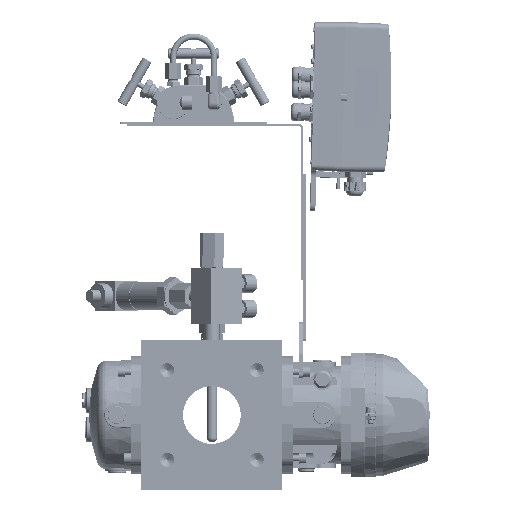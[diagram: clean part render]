
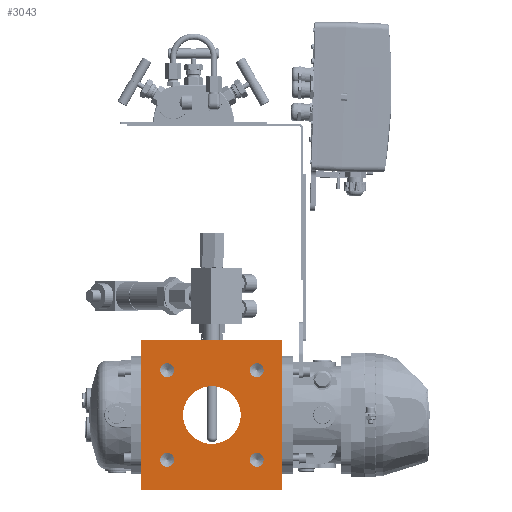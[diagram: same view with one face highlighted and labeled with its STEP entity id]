
A CAD part, front view. The second image highlights one B-rep face of the part: STEP entity #3043.
In plain terms, the highlighted planar face has unit normal (0, -1, 0).
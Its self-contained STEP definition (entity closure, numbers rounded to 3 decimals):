
#3043=ADVANCED_FACE('',(#281052,#281054,#281056,#281058,#281060,#281062),#281064,
.T.);
#281052=FACE_BOUND('',#281053,.T.);
#281053=EDGE_LOOP('',(#553395,#553396,#553397,#553398));
#281054=FACE_BOUND('',#281055,.T.);
#281055=EDGE_LOOP('',(#553399));
#281056=FACE_BOUND('',#281057,.T.);
#281057=EDGE_LOOP('',(#553400));
#281058=FACE_BOUND('',#281059,.T.);
#281059=EDGE_LOOP('',(#553401));
#281060=FACE_BOUND('',#281061,.T.);
#281061=EDGE_LOOP('',(#553402));
#281062=FACE_BOUND('',#281063,.T.);
#281063=EDGE_LOOP('',(#553403));
#281064=PLANE('',#281065);
#281065=AXIS2_PLACEMENT_3D('',#281066,#281067,#281068);
#281066=CARTESIAN_POINT('',(-69.5,-85.5,74.));
#281067=DIRECTION('',(0.,-1.,0.));
#281068=DIRECTION('',(0.,0.,-1.));
#553395=ORIENTED_EDGE('',*,*,#765098,.T.);
#553396=ORIENTED_EDGE('',*,*,#765116,.T.);
#553397=ORIENTED_EDGE('',*,*,#765031,.T.);
#553398=ORIENTED_EDGE('',*,*,#765115,.F.);
#553399=ORIENTED_EDGE('',*,*,#765117,.T.);
#553400=ORIENTED_EDGE('',*,*,#765118,.T.);
#553401=ORIENTED_EDGE('',*,*,#765119,.T.);
#553402=ORIENTED_EDGE('',*,*,#765120,.T.);
#553403=ORIENTED_EDGE('',*,*,#765121,.T.);
#765031=EDGE_CURVE('',#853842,#853840,#853843,.T.);
#765098=EDGE_CURVE('',#853973,#853971,#853974,.T.);
#765115=EDGE_CURVE('',#853973,#853840,#853999,.T.);
#765116=EDGE_CURVE('',#853971,#853842,#854000,.T.);
#765117=EDGE_CURVE('',#854001,#854001,#854002,.T.);
#765118=EDGE_CURVE('',#854003,#854003,#854004,.T.);
#765119=EDGE_CURVE('',#854005,#854005,#854006,.T.);
#765120=EDGE_CURVE('',#854007,#854007,#854008,.T.);
#765121=EDGE_CURVE('',#854009,#854009,#854010,.T.);
#853840=VERTEX_POINT('',#1001901);
#853842=VERTEX_POINT('',#1001905);
#853843=LINE('',#1001906,#1001907);
#853971=VERTEX_POINT('',#1002198);
#853973=VERTEX_POINT('',#1002202);
#853974=LINE('',#1002203,#1002204);
#853999=LINE('',#1002268,#1002269);
#854000=LINE('',#1002271,#1002272);
#854001=VERTEX_POINT('',#1002274);
#854002=CIRCLE('',#1002275,6.917);
#854003=VERTEX_POINT('',#1002279);
#854004=CIRCLE('',#1002280,6.917);
#854005=VERTEX_POINT('',#1002284);
#854006=CIRCLE('',#1002285,6.917);
#854007=VERTEX_POINT('',#1002289);
#854008=CIRCLE('',#1002290,28.5);
#854009=VERTEX_POINT('',#1002294);
#854010=CIRCLE('',#1002295,6.917);
#1001901=CARTESIAN_POINT('',(69.5,-85.5,74.));
#1001905=CARTESIAN_POINT('',(69.5,-85.5,-74.));
#1001906=CARTESIAN_POINT('',(69.5,-85.5,-74.));
#1001907=VECTOR('',#1001908,1.);
#1001908=DIRECTION('',(0.,0.,1.));
#1002198=CARTESIAN_POINT('',(-69.5,-85.5,-74.));
#1002202=CARTESIAN_POINT('',(-69.5,-85.5,74.));
#1002203=CARTESIAN_POINT('',(-69.5,-85.5,74.));
#1002204=VECTOR('',#1002205,1.);
#1002205=DIRECTION('',(0.,0.,-1.));
#1002268=CARTESIAN_POINT('',(-69.5,-85.5,74.));
#1002269=VECTOR('',#1002270,1.);
#1002270=DIRECTION('',(1.,0.,0.));
#1002271=CARTESIAN_POINT('',(-69.5,-85.5,-74.));
#1002272=VECTOR('',#1002273,1.);
#1002273=DIRECTION('',(1.,0.,0.));
#1002274=CARTESIAN_POINT('',(-37.277,-85.5,44.194));
#1002275=AXIS2_PLACEMENT_3D('',#1002276,#1002277,#1002278);
#1002276=CARTESIAN_POINT('',(-44.194,-85.5,44.194));
#1002277=DIRECTION('',(0.,1.,0.));
#1002278=DIRECTION('',(1.,0.,0.));
#1002279=CARTESIAN_POINT('',(-37.277,-85.5,-44.194));
#1002280=AXIS2_PLACEMENT_3D('',#1002281,#1002282,#1002283);
#1002281=CARTESIAN_POINT('',(-44.194,-85.5,-44.194));
#1002282=DIRECTION('',(0.,1.,0.));
#1002283=DIRECTION('',(1.,0.,0.));
#1002284=CARTESIAN_POINT('',(51.112,-85.5,-44.194));
#1002285=AXIS2_PLACEMENT_3D('',#1002286,#1002287,#1002288);
#1002286=CARTESIAN_POINT('',(44.194,-85.5,-44.194));
#1002287=DIRECTION('',(0.,1.,0.));
#1002288=DIRECTION('',(1.,0.,0.));
#1002289=CARTESIAN_POINT('',(-28.5,-85.5,0.));
#1002290=AXIS2_PLACEMENT_3D('',#1002291,#1002292,#1002293);
#1002291=CARTESIAN_POINT('',(0.,-85.5,0.));
#1002292=DIRECTION('',(0.,1.,0.));
#1002293=DIRECTION('',(-1.,0.,0.));
#1002294=CARTESIAN_POINT('',(51.112,-85.5,44.194));
#1002295=AXIS2_PLACEMENT_3D('',#1002296,#1002297,#1002298);
#1002296=CARTESIAN_POINT('',(44.194,-85.5,44.194));
#1002297=DIRECTION('',(0.,1.,0.));
#1002298=DIRECTION('',(1.,0.,0.));
